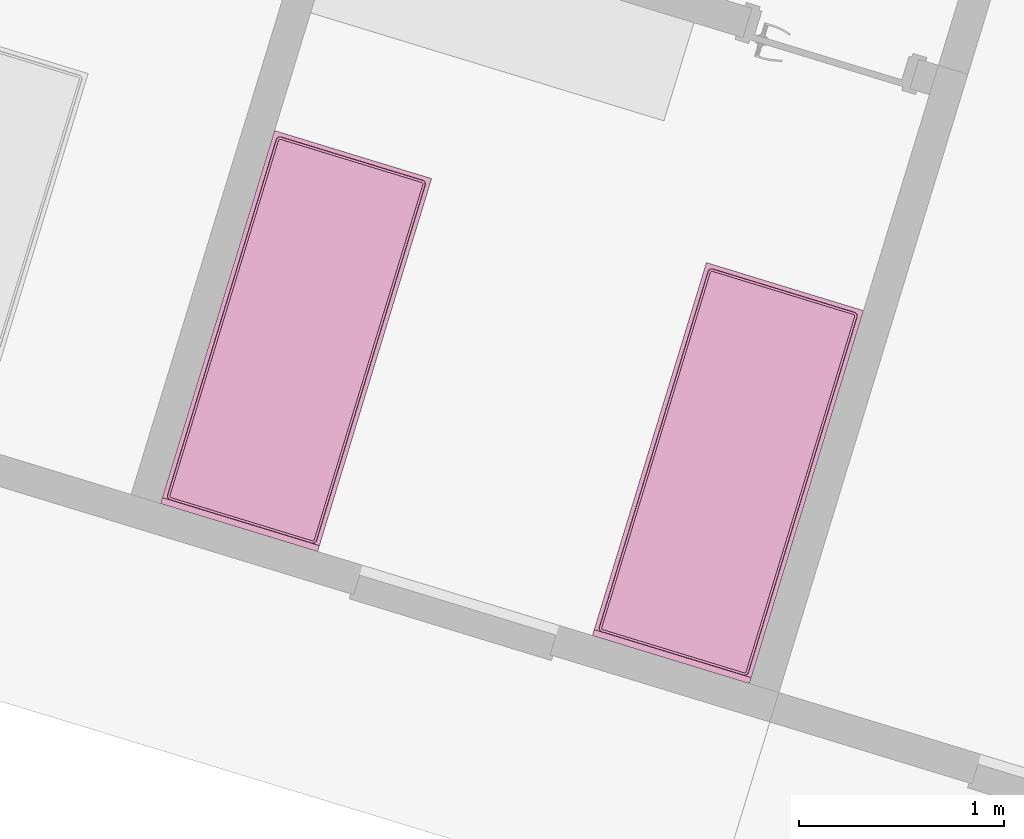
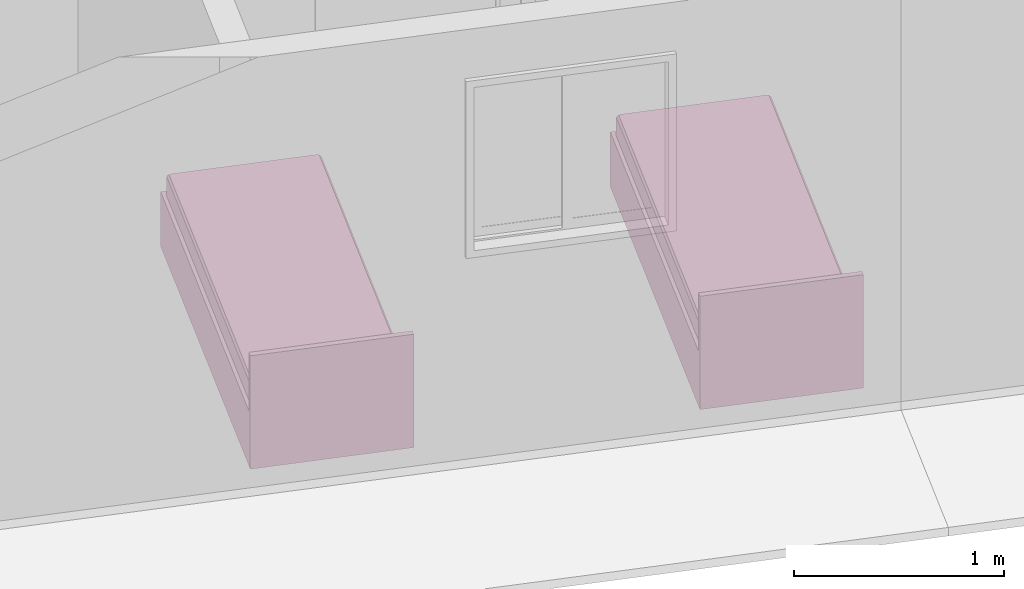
# One storey, part 9 of 13: 2 furnishings.
"""IFC2X3 building model written with IfcOpenShell, lengths in millimetres."""

from ifc_helpers import new_model, entity, si_unit, converted_unit, derived_unit, money_unit, direction, frame, origin_with_axes, place, context, subcontext, project, spatial, faceted_brep, source, transform, mapped, type_object, element, save


model = new_model("IFC2X3")

# Units and contexts
model_context = context("Model", 3, precision=0.01, world=origin_with_axes(), true_north=direction((0.0, 1.0)))
body_context = subcontext(model_context, "Body", "Model", "MODEL_VIEW")
ifc_project = project(units=[si_unit("LENGTHUNIT", "METRE", prefix="MILLI"), si_unit("AREAUNIT", "SQUARE_METRE"), si_unit("VOLUMEUNIT", "CUBIC_METRE"), converted_unit("PLANEANGLEUNIT", "DEGREE", entity("IfcPlaneAngleMeasure", 0.0174532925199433), si_unit("PLANEANGLEUNIT", "RADIAN"), dimensions=[0, 0, 0, 0, 0, 0, 0]), money_unit("USD"), converted_unit("TIMEUNIT", "Year", entity("IfcTimeMeasure", 31557600.0), si_unit("TIMEUNIT", "SECOND"), dimensions=[0, 0, 1, 0, 0, 0, 0]), si_unit("MASSUNIT", "GRAM", prefix="KILO"), si_unit("THERMODYNAMICTEMPERATUREUNIT", "DEGREE_CELSIUS"), si_unit("LUMINOUSINTENSITYUNIT", "LUMEN"), si_unit("ENERGYUNIT", "JOULE", prefix="MEGA"), derived_unit("THERMALCONDUCTANCEUNIT", [(si_unit("POWERUNIT", "WATT"), 1), (si_unit("LENGTHUNIT", "METRE"), -1), (si_unit("THERMODYNAMICTEMPERATUREUNIT", "KELVIN"), -1)]), derived_unit("SPECIFICHEATCAPACITYUNIT", [(si_unit("ENERGYUNIT", "JOULE"), 1), (si_unit("MASSUNIT", "GRAM", prefix="KILO"), -1), (si_unit("THERMODYNAMICTEMPERATUREUNIT", "KELVIN"), -1)]), derived_unit("MASSDENSITYUNIT", [(si_unit("MASSUNIT", "GRAM", prefix="KILO"), 1), (si_unit("VOLUMEUNIT", "CUBIC_METRE"), -1)])], contexts=[model_context])

# Site, building, storey, space
site_placement = place(None, frame((0.0, 0.0, 0.0), z_axis=(0.0, 0.0, 1.0), x_axis=(0.9563047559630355, -0.2923717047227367, 0.0)))
site = spatial("IfcSite", under=ifc_project, at=site_placement, Name="Site", CompositionType="ELEMENT")
building_placement = place(site_placement, origin_with_axes())
building = spatial("IfcBuilding", under=site, at=building_placement, Name="Casa Térrea Isolada", CompositionType="ELEMENT")
storey_placement = place(building_placement, origin_with_axes())
storey = spatial("IfcBuildingStorey", under=building, at=storey_placement, Name="Terreo", CompositionType="ELEMENT", Elevation=0.0)
space_placement = place(storey_placement, frame((3300.001504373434, 149.9985476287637, 0.0), z_axis=(0.0, 0.0, 1.0), x_axis=(1.0, 0.0, 0.0)))
space = spatial("IfcSpace", under=storey, at=space_placement, Name="03", CompositionType="ELEMENT", InteriorOrExteriorSpace="INTERNAL")

# Furnishings
furniture_type = type_object("IfcFurnitureType", Name="Bed 01 27", AssemblyPlace="NOTDEFINED")
shared_shape = source(origin_with_axes(), body_context, "Body", "Brep", [
    faceted_brep([(800.0, 1870.0, 0.0), (0.0, 1870.0, 0.0), (0.0, 1900.0, 0.0), (800.0, 1900.0, 0.0), (800.0, 1870.0, 660.0), (0.0, 1870.0, 660.0), (0.0, 1900.0, 660.0), (800.0, 1900.0, 660.0)], [[[0, 1, 2, 3]], [[1, 0, 4, 5]], [[2, 1, 5, 6]], [[3, 2, 6, 7]], [[0, 3, 7, 4]], [[5, 4, 7, 6]]]),
    faceted_brep([(800.0, 0.0, 0.0), (0.0, 0.0, 0.0), (0.0, 1870.0, 0.0), (800.0, 1870.0, 0.0), (800.0, 0.0, 320.0), (0.0, 0.0, 320.0), (0.0, 1870.0, 320.0), (800.0, 1870.0, 320.0)], [[[0, 1, 2, 3]], [[1, 0, 4, 5]], [[2, 1, 5, 6]], [[3, 2, 6, 7]], [[0, 3, 7, 4]], [[5, 4, 7, 6]]]),
    faceted_brep([(20.0, 40.0, 350.0), (20.0, 1850.0, 350.0), (21.52240934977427, 1857.653668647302, 350.0), (25.85786437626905, 1864.142135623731, 350.0), (32.34633135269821, 1868.477590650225, 350.0), (40.0, 1870.0, 350.0), (760.0, 1870.0, 350.0), (767.6536686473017, 1868.477590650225, 350.0), (774.142135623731, 1864.142135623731, 350.0), (778.4775906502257, 1857.653668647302, 350.0), (780.0, 1850.0, 350.0), (780.0, 40.0, 350.0), (778.4775906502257, 32.34633135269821, 350.0), (774.142135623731, 25.85786437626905, 350.0), (767.6536686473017, 21.52240934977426, 350.0), (760.0, 20.0, 350.0), (40.00000000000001, 20.0, 350.0), (32.34633135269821, 21.52240934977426, 350.0), (25.85786437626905, 25.85786437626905, 350.0), (21.52240934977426, 32.34633135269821, 350.0), (19.99999961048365, 40.00000009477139, 420.0), (19.99999961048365, 1849.999999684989, 420.0), (21.52240934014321, 1857.653668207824, 420.0), (25.85786400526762, 1864.142135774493, 420.0), (32.34633157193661, 1868.477590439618, 420.0), (40.00000009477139, 1870.000000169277, 420.0), (759.9999998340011, 1870.000000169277, 420.0), (767.6536683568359, 1868.477590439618, 420.0), (774.1421359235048, 1864.142135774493, 420.0), (778.4775905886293, 1857.653668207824, 420.0), (780.0000003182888, 1849.999999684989, 420.0), (780.0000003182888, 40.00000009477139, 420.0), (778.4775905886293, 32.34633157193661, 420.0), (774.1421359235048, 25.85786400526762, 420.0), (767.6536683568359, 21.52240934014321, 420.0), (759.9999998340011, 19.99999961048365, 420.0), (40.00000009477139, 19.99999961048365, 420.0), (32.34633157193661, 21.52240934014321, 420.0), (25.85786400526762, 25.85786400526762, 420.0), (21.52240934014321, 32.34633157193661, 420.0), (21.52240893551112, 40.14994436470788, 427.6536686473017), (21.52240893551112, 1849.850055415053, 427.6536686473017), (22.95648755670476, 1857.059653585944, 427.6536686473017), (26.95545997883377, 1863.044539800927, 427.6536686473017), (32.94034619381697, 1867.043512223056, 427.6536686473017), (40.14994436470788, 1868.47759084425, 427.6536686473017), (759.8500555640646, 1868.47759084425, 427.6536686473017), (767.0596537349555, 1867.043512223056, 427.6536686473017), (773.0445399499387, 1863.044539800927, 427.6536686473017), (777.0435123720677, 1857.059653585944, 427.6536686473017), (778.4775909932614, 1849.850055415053, 427.6536686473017), (778.4775909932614, 40.14994436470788, 427.6536686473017), (777.0435123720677, 32.94034619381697, 427.6536686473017), (773.0445399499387, 26.95545997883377, 427.6536686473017), (767.0596537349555, 22.95648755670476, 427.6536686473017), (759.8500555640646, 21.52240893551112, 427.6536686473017), (40.14994436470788, 21.52240893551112, 427.6536686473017), (32.94034619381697, 22.95648755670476, 427.6536686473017), (26.95545997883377, 26.95545997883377, 427.6536686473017), (22.95648755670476, 32.94034619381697, 427.6536686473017), (32.34633116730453, 41.21600793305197, 438.4775906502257), (32.34633116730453, 1848.783991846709, 438.4775906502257), (33.1523992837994, 1852.83636884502, 438.4775906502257), (34.75907314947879, 1855.240926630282, 438.4775906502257), (37.16363093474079, 1856.847600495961, 438.4775906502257), (41.21600793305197, 1857.653668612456, 438.4775906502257), (758.7839919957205, 1857.653668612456, 438.4775906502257), (762.8363689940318, 1856.847600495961, 438.4775906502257), (765.2409267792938, 1855.240926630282, 438.4775906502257), (766.8476006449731, 1852.83636884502, 438.4775906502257), (767.653668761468, 1848.783991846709, 438.4775906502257), (767.653668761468, 41.21600793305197, 438.4775906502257), (766.8476006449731, 37.16363093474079, 438.4775906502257), (765.2409267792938, 34.75907314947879, 438.4775906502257), (762.8363689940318, 33.1523992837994, 438.4775906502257), (758.7839919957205, 32.34633116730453, 438.4775906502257), (41.21600793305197, 32.34633116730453, 438.4775906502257), (37.16363093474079, 33.1523992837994, 438.4775906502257), (34.75907314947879, 34.75907314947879, 438.4775906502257), (33.1523992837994, 37.16363093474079, 438.4775906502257), (40.00000172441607, 41.96982888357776, 440.0000003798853), (40.00000172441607, 1848.030170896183, 440.0000003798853), (40.3268171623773, 1849.673182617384, 440.0000003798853), (39.99999983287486, 1849.999999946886, 439.9235590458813), (41.96982888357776, 1849.999998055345, 440.0000003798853), (758.0301710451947, 1849.999998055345, 440.0000003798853), (759.6731827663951, 1849.673182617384, 440.0000003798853), (760.0000000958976, 1849.999999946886, 439.9235590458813), (759.9999982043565, 1848.030170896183, 440.0000003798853), (759.9999982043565, 41.96982888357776, 440.0000003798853), (759.6731827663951, 40.3268171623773, 440.0000003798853), (760.0000000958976, 39.99999983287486, 439.9235590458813), (758.0301710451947, 40.00000172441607, 440.0000003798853), (41.96982888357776, 40.00000172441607, 440.0000003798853), (40.3268171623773, 40.3268171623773, 440.0000003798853), (39.99999983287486, 39.99999983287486, 439.9235590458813)], [[[0, 1, 2, 3, 4, 5, 6, 7, 8, 9, 10, 11, 12, 13, 14, 15, 16, 17, 18, 19]], [[1, 0, 20, 21]], [[2, 1, 21, 22]], [[3, 2, 22, 23]], [[4, 3, 23, 24]], [[5, 4, 24, 25]], [[6, 5, 25, 26]], [[7, 6, 26, 27]], [[8, 7, 27, 28]], [[9, 8, 28, 29]], [[10, 9, 29, 30]], [[11, 10, 30, 31]], [[12, 11, 31, 32]], [[13, 12, 32, 33]], [[14, 13, 33, 34]], [[15, 14, 34, 35]], [[16, 15, 35, 36]], [[17, 16, 36, 37]], [[18, 17, 37, 38]], [[19, 18, 38, 39]], [[0, 19, 39, 20]], [[21, 20, 40, 41]], [[22, 21, 41, 42]], [[23, 22, 42, 43]], [[24, 23, 43, 44]], [[25, 24, 44, 45]], [[26, 25, 45, 46]], [[27, 26, 46, 47]], [[28, 27, 47, 48]], [[29, 28, 48, 49]], [[30, 29, 49, 50]], [[31, 30, 50, 51]], [[32, 31, 51, 52]], [[33, 32, 52, 53]], [[34, 33, 53, 54]], [[35, 34, 54, 55]], [[36, 35, 55, 56]], [[37, 36, 56, 57]], [[38, 37, 57, 58]], [[39, 38, 58, 59]], [[20, 39, 59, 40]], [[41, 40, 60, 61]], [[42, 41, 61, 62]], [[43, 42, 62, 63]], [[44, 43, 63, 64]], [[45, 44, 64, 65]], [[46, 45, 65, 66]], [[47, 46, 66, 67]], [[48, 47, 67, 68]], [[49, 48, 68, 69]], [[50, 49, 69, 70]], [[51, 50, 70, 71]], [[52, 51, 71, 72]], [[53, 52, 72, 73]], [[54, 53, 73, 74]], [[55, 54, 74, 75]], [[56, 55, 75, 76]], [[57, 56, 76, 77]], [[58, 57, 77, 78]], [[59, 58, 78, 79]], [[40, 59, 79, 60]], [[61, 60, 80, 81]], [[62, 61, 81, 82, 83]], [[63, 62, 83]], [[64, 63, 83]], [[65, 64, 83, 82, 84]], [[66, 65, 84, 85]], [[67, 66, 85, 86, 87]], [[68, 67, 87]], [[69, 68, 87]], [[70, 69, 87, 86, 88]], [[71, 70, 88, 89]], [[72, 71, 89, 90, 91]], [[73, 72, 91]], [[74, 73, 91]], [[75, 74, 91, 90, 92]], [[76, 75, 92, 93]], [[77, 76, 93, 94, 95]], [[78, 77, 95]], [[79, 78, 95]], [[60, 79, 95, 94, 80]], [[81, 80, 94, 93, 92, 90, 89, 88, 86, 85, 84, 82]]]),
    faceted_brep([(20.0, 40.0, 350.0), (21.52240934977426, 32.34633135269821, 350.0), (25.85786437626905, 25.85786437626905, 350.0), (32.34633135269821, 21.52240934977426, 350.0), (40.00000000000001, 20.0, 350.0), (760.0, 20.0, 350.0), (767.6536686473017, 21.52240934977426, 350.0), (774.142135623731, 25.85786437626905, 350.0), (778.4775906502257, 32.34633135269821, 350.0), (780.0, 40.0, 350.0), (780.0, 1850.0, 350.0), (778.4775906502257, 1857.653668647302, 350.0), (774.142135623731, 1864.142135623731, 350.0), (767.6536686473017, 1868.477590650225, 350.0), (760.0, 1870.0, 350.0), (40.0, 1870.0, 350.0), (32.34633135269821, 1868.477590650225, 350.0), (25.85786437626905, 1864.142135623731, 350.0), (21.52240934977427, 1857.653668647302, 350.0), (20.0, 1850.0, 350.0), (19.99999983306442, 40.00000004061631, 320.0), (21.52240934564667, 32.34633144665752, 320.0), (25.85786421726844, 25.85786421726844, 320.0), (32.34633144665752, 21.52240934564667, 320.0), (40.00000004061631, 19.99999983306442, 320.0), (759.9999999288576, 19.99999983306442, 320.0), (767.6536685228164, 21.52240934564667, 320.0), (774.1421357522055, 25.85786421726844, 320.0), (778.4775906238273, 32.34633144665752, 320.0), (780.0000001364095, 40.00000004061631, 320.0), (780.0000001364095, 1849.999999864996, 319.9999999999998), (778.4775906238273, 1857.653668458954, 319.9999999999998), (774.1421357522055, 1864.142135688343, 319.9999999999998), (767.6536685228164, 1868.477590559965, 319.9999999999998), (759.9999999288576, 1870.000000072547, 319.9999999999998), (40.00000004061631, 1870.000000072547, 319.9999999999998), (32.34633144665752, 1868.477590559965, 319.9999999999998), (25.85786421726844, 1864.142135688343, 319.9999999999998), (21.52240934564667, 1857.653668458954, 319.9999999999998), (19.99999983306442, 1849.999999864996, 319.9999999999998)], [[[0, 1, 2, 3, 4, 5, 6, 7, 8, 9, 10, 11, 12, 13, 14, 15, 16, 17, 18, 19]], [[0, 20, 21, 1]], [[1, 21, 22, 2]], [[2, 22, 23, 3]], [[3, 23, 24, 4]], [[4, 24, 25, 5]], [[5, 25, 26, 6]], [[6, 26, 27, 7]], [[7, 27, 28, 8]], [[8, 28, 29, 9]], [[9, 29, 30, 10]], [[10, 30, 31, 11]], [[11, 31, 32, 12]], [[12, 32, 33, 13]], [[13, 33, 34, 14]], [[14, 34, 35, 15]], [[15, 35, 36, 16]], [[16, 36, 37, 17]], [[17, 37, 38, 18]], [[18, 38, 39, 19]], [[19, 39, 20, 0]], [[20, 39, 38, 37, 36, 35, 34, 33, 32, 31, 30, 29, 28, 27, 26, 25, 24, 23, 22, 21]]]),
])
for number, where, z_axis, x_axis, name in (
    (1, (800.0000000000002, 1900.0, 0.0), (0.0, 0.0, 1.0), (-1.0, 0.0, 0.0), "MB09"),
    (2, (3000.001366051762, 1900.0, 0.0), (0.0, 0.0, 1.0), (-1.0, 0.0, 0.0), "MB10"),
):
    element("IfcFurnishingElement", number, at=place(space_placement, frame(where, z_axis=z_axis, x_axis=x_axis)), inside=space, type_object=furniture_type, Name=name, context=body_context, shape_type="MappedRepresentation", body=[
        mapped(shared_shape, transform((0.0, 0.0, 0.0))),
    ])

save(model, "model.ifc")
